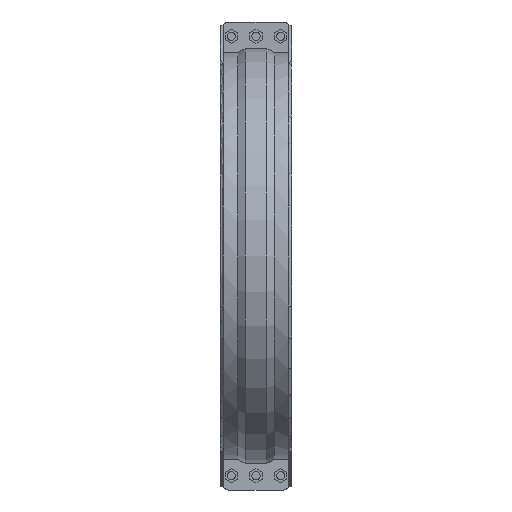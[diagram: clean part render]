
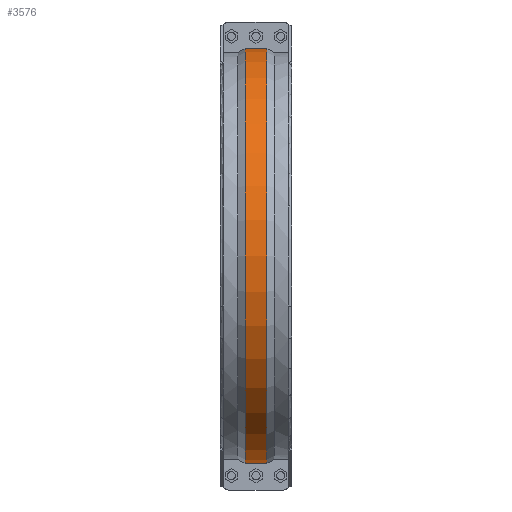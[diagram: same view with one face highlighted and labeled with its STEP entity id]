
A CAD part, front view. The second image highlights one B-rep face of the part: STEP entity #3576.
In plain terms, the highlighted cylindrical face has radius 479.676 mm (diameter 959.353 mm), a partial arc.
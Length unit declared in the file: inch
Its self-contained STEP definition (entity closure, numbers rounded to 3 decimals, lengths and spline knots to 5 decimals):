
#409=FACE_OUTER_BOUND('',#623,.T.);
#623=EDGE_LOOP('',(#3062,#3063,#3064,#3065));
#777=LINE('',#5347,#1116);
#972=LINE('',#5974,#1311);
#1116=VECTOR('',#4277,0.3937);
#1311=VECTOR('',#4798,0.3937);
#1381=CIRCLE('',#3768,18.8849);
#1415=CIRCLE('',#3882,18.8849);
#1557=VERTEX_POINT('',#5342);
#1558=VERTEX_POINT('',#5346);
#1607=VERTEX_POINT('',#5570);
#1734=VERTEX_POINT('',#5970);
#1928=EDGE_CURVE('',#1558,#1557,#777,.T.);
#2002=EDGE_CURVE('',#1607,#1557,#1381,.T.);
#2196=EDGE_CURVE('',#1607,#1734,#972,.T.);
#2199=EDGE_CURVE('',#1734,#1558,#1415,.T.);
#3062=ORIENTED_EDGE('',*,*,#1928,.T.);
#3063=ORIENTED_EDGE('',*,*,#2002,.F.);
#3064=ORIENTED_EDGE('',*,*,#2196,.T.);
#3065=ORIENTED_EDGE('',*,*,#2199,.T.);
#3208=CYLINDRICAL_SURFACE('',#3881,18.8849);
#3576=ADVANCED_FACE('',(#409),#3208,.T.);
#3768=AXIS2_PLACEMENT_3D('',#5574,#4419,#4420);
#3881=AXIS2_PLACEMENT_3D('',#5979,#4807,#4808);
#3882=AXIS2_PLACEMENT_3D('',#5980,#4809,#4810);
#4277=DIRECTION('',(1.,0.,0.));
#4419=DIRECTION('center_axis',(1.,0.,0.));
#4420=DIRECTION('ref_axis',(0.,0.,-1.));
#4798=DIRECTION('',(-1.,0.,0.));
#4807=DIRECTION('center_axis',(1.,0.,0.));
#4808=DIRECTION('ref_axis',(0.,-1.,0.));
#4809=DIRECTION('center_axis',(1.,0.,0.));
#4810=DIRECTION('ref_axis',(0.,0.,-1.));
#5342=CARTESIAN_POINT('',(1.,-0.375,-18.88118));
#5346=CARTESIAN_POINT('',(-1.,-0.375,-18.88118));
#5347=CARTESIAN_POINT('',(0.5,-0.375,-18.88118));
#5570=CARTESIAN_POINT('',(1.,-0.375,18.88118));
#5574=CARTESIAN_POINT('Origin',(1.,0.,0.));
#5970=CARTESIAN_POINT('',(-1.,-0.375,18.88118));
#5974=CARTESIAN_POINT('',(0.5,-0.375,18.88118));
#5979=CARTESIAN_POINT('Origin',(0.5,0.,0.));
#5980=CARTESIAN_POINT('Origin',(-1.,0.,0.));
